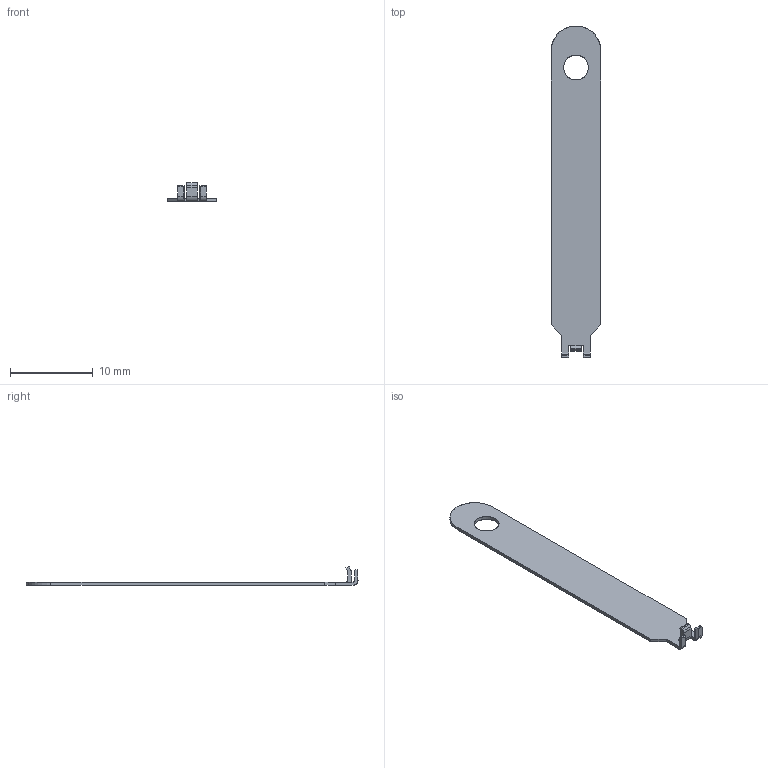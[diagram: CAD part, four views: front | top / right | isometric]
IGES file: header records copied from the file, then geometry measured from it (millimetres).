
Start section: SolidWorks IGES file using analytic representation for surfaces
Global section: file name: C:\3dwork\Toida\アダプタ関連　3Dモデル\90612\90612-0001 MHF 5 MATING AND UNMATING TOOL.IGS; native system: SolidWorks 2017; preprocessor: SolidWorks 2017; author: ipxcad-021; date: 200408.154005; units: millimetre
Bounding box: 6 x 40 x 2.25 mm (x, y, z)
Surface area: 489.8 mm2 (no closed solid volume)
Topology: 0 solids, 0 shells, 45 faces, 402 edges, 402 vertices
Faces by surface type: bspline 32, revolution 13
